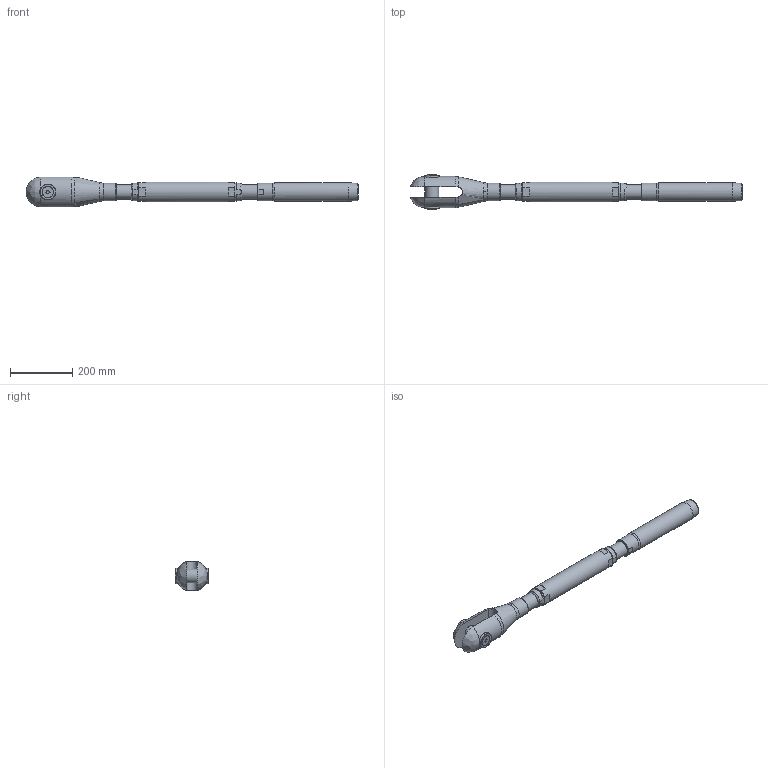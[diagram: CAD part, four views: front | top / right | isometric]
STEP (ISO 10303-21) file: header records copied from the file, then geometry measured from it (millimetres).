
FILE_DESCRIPTION(/* description */ (''),/* implementation_level */ '2;1');
FILE_NAME(/* name */ 'TBC 32_42CrMo4',/* time_stamp */ '2023-05-23T18:16:48+02:00',/* author */ (''),/* organization */ (''),/* preprocessor_version */ 'ST-DEVELOPER v16.5',/* originating_system */ 'Rhino 7.22',/* authorisation */ '');
FILE_SCHEMA (('CONFIG_CONTROL_DESIGN'));
Length unit declared in the file: millimetre
Products named in the file (1): Document
Bounding box: 1062.97 x 108.79 x 94.04 mm (x, y, z)
Volume: 3184971.1 mm3; surface area: 389227.4 mm2
Topology: 10 solids, 10 shells, 142 faces, 388 edges, 268 vertices
Faces by surface type: plane 65, bspline 42, cylinder 35
Full cylindrical faces by diameter (mm): 17.294 x2, 20 x2, 21 x2, 35.4 x2, 44 x1, 44.752 x4, 46 x2, 48 x2, 50 x2, 52 x1, 57.2 x2, 60.5 x1, 64 x1
Entity records: 6049 total; most frequent: CARTESIAN_POINT 3594, ORIENTED_EDGE 768, EDGE_CURVE 384, VERTEX_POINT 268, EDGE_LOOP 162, B_SPLINE_CURVE_WITH_KNOTS 159, ADVANCED_FACE 142, FACE_OUTER_BOUND 142
